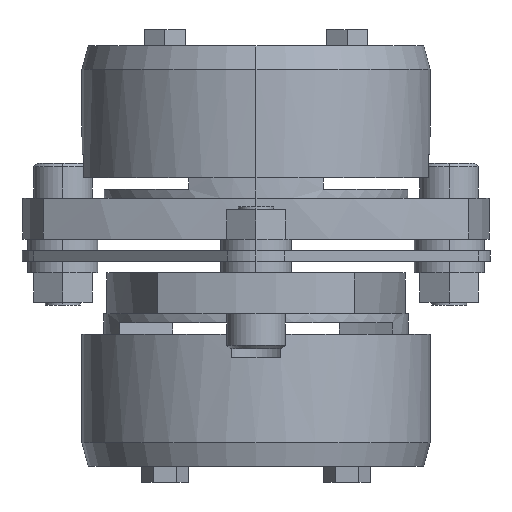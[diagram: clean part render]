
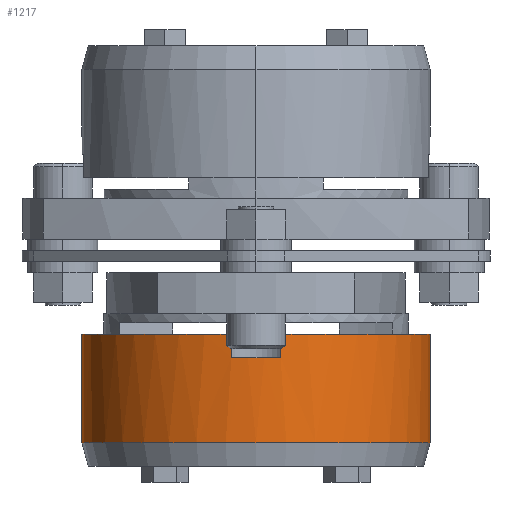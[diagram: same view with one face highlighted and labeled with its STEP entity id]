
A CAD part, left-side view. The second image highlights one B-rep face of the part: STEP entity #1217.
In plain terms, the highlighted cylindrical face has radius 29.75 mm (diameter 59.5 mm), a partial arc.
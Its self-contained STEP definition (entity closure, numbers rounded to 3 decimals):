
#1023=CARTESIAN_POINT('',(0.,29.75,-31.875));
#1024=VERTEX_POINT('',#1023);
#1040=CARTESIAN_POINT('',(0.,-29.75,-31.875));
#1041=VERTEX_POINT('',#1040);
#1048=CARTESIAN_POINT('',(0.,0.,-31.875));
#1049=DIRECTION('',(0.0,0.0,-1.0));
#1050=DIRECTION('',(0.0,1.0,0.0));
#1051=AXIS2_PLACEMENT_3D('',#1048,#1049,#1050);
#1052=CIRCLE('',#1051,29.75);
#1053=EDGE_CURVE('',#1041,#1024,#1052,.T.);
#1152=CARTESIAN_POINT('',(0.,0.,-13.375));
#1153=DIRECTION('',(0.0,0.0,-1.0));
#1154=DIRECTION('',(0.0,-1.0,0.0));
#1155=AXIS2_PLACEMENT_3D('',#1152,#1153,#1154);
#1156=CYLINDRICAL_SURFACE('',#1155,29.75);
#1157=CARTESIAN_POINT('',(0.,-29.75,-13.375));
#1158=VERTEX_POINT('',#1157);
#1159=CARTESIAN_POINT('',(0.,-29.75,-13.375));
#1160=DIRECTION('',(0.0,0.0,-1.0));
#1161=VECTOR('',#1160,18.5);
#1162=LINE('',#1159,#1161);
#1163=EDGE_CURVE('',#1158,#1041,#1162,.T.);
#1164=ORIENTED_EDGE('',*,*,#1163,.F.);
#1165=CARTESIAN_POINT('',(-29.452,-4.202,-13.375));
#1166=VERTEX_POINT('',#1165);
#1167=CARTESIAN_POINT('',(0.,0.,-13.375));
#1168=DIRECTION('',(0.0,0.0,-1.0));
#1169=DIRECTION('',(0.0,-1.0,0.0));
#1170=AXIS2_PLACEMENT_3D('',#1167,#1168,#1169);
#1171=CIRCLE('',#1170,29.75);
#1172=EDGE_CURVE('',#1158,#1166,#1171,.T.);
#1173=ORIENTED_EDGE('',*,*,#1172,.T.);
#1174=CARTESIAN_POINT('',(-29.452,-4.202,-17.375));
#1175=VERTEX_POINT('',#1174);
#1176=CARTESIAN_POINT('',(-29.452,-4.202,-13.375));
#1177=DIRECTION('',(0.0,0.0,-1.0));
#1178=VECTOR('',#1177,4.0);
#1179=LINE('',#1176,#1178);
#1180=EDGE_CURVE('',#1166,#1175,#1179,.T.);
#1181=ORIENTED_EDGE('',*,*,#1180,.T.);
#1182=CARTESIAN_POINT('',(-29.452,4.202,-17.375));
#1183=VERTEX_POINT('',#1182);
#1184=CARTESIAN_POINT('',(0.,0.,-17.375));
#1185=DIRECTION('',(0.0,0.0,-1.0));
#1186=DIRECTION('',(0.0,-1.0,0.0));
#1187=AXIS2_PLACEMENT_3D('',#1184,#1185,#1186);
#1188=CIRCLE('',#1187,29.75);
#1189=EDGE_CURVE('',#1175,#1183,#1188,.T.);
#1190=ORIENTED_EDGE('',*,*,#1189,.T.);
#1191=CARTESIAN_POINT('',(-29.452,4.202,-13.375));
#1192=VERTEX_POINT('',#1191);
#1193=CARTESIAN_POINT('',(-29.452,4.202,-17.375));
#1194=DIRECTION('',(0.0,0.0,1.0));
#1195=VECTOR('',#1194,4.0);
#1196=LINE('',#1193,#1195);
#1197=EDGE_CURVE('',#1183,#1192,#1196,.T.);
#1198=ORIENTED_EDGE('',*,*,#1197,.T.);
#1199=CARTESIAN_POINT('',(0.,29.75,-13.375));
#1200=VERTEX_POINT('',#1199);
#1201=CARTESIAN_POINT('',(0.,0.,-13.375));
#1202=DIRECTION('',(0.0,0.0,-1.0));
#1203=DIRECTION('',(0.0,-1.0,0.0));
#1204=AXIS2_PLACEMENT_3D('',#1201,#1202,#1203);
#1205=CIRCLE('',#1204,29.75);
#1206=EDGE_CURVE('',#1192,#1200,#1205,.T.);
#1207=ORIENTED_EDGE('',*,*,#1206,.T.);
#1208=CARTESIAN_POINT('',(0.,29.75,-31.875));
#1209=DIRECTION('',(0.0,0.0,1.0));
#1210=VECTOR('',#1209,18.5);
#1211=LINE('',#1208,#1210);
#1212=EDGE_CURVE('',#1024,#1200,#1211,.T.);
#1213=ORIENTED_EDGE('',*,*,#1212,.F.);
#1214=ORIENTED_EDGE('',*,*,#1053,.F.);
#1215=EDGE_LOOP('',(#1164,#1173,#1181,#1190,#1198,#1207,#1213,#1214));
#1216=FACE_OUTER_BOUND('',#1215,.T.);
#1217=ADVANCED_FACE('',(#1216),#1156,.T.);
